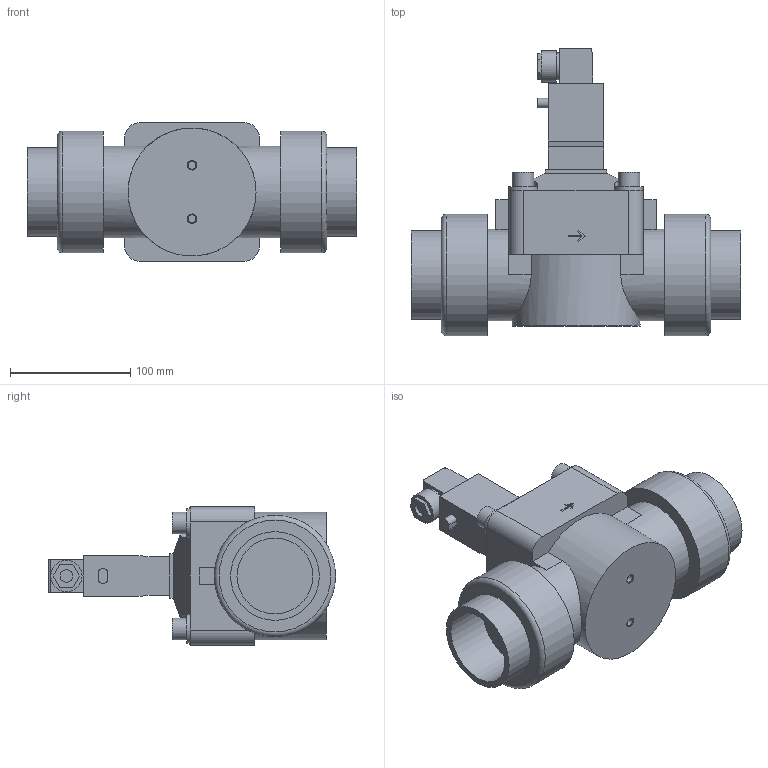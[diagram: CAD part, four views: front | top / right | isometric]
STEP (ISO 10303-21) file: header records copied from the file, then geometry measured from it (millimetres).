
FILE_DESCRIPTION( ( 'STEP AP214' ), '1' );
FILE_NAME( 'p:/temp/worker_19/temp/app_54_02018110107034358241387192d056f_000000_00_00_000000/format_0/0142-042264-2_2-way_Solenoid_Valve_for_aggressive_media__true_union__D50.stp', '2018-11-01T06:03:44', ( '' ), ( '' ), ' ', 'PARTsolutions', ' ' );
FILE_SCHEMA( ( 'AUTOMOTIVE_DESIGN { 1 0 10303 214 1 1 1 1 }' ) );
Length unit declared in the file: millimetre
Products named in the file (1): HI_0142-042264-2/2-way Solenoid Valve for aggressive media, true union, D50
Bounding box: 274 x 239 x 115 mm (x, y, z)
Volume: 2263305.5 mm3; surface area: 166257 mm2
Topology: 1 solids, 1 shells, 148 faces, 347 edges, 223 vertices
Faces by surface type: plane 107, cylinder 37, cone 2, torus 2
Full cylindrical faces by diameter (mm): 6 x1, 6.647 x2, 7 x1, 10.5 x1, 18 x4, 22.5 x1, 26 x1, 63.2 x2, 73.8 x2, 76 x2, 101 x2, 106.5 x1
Entity records: 5364 total; most frequent: CARTESIAN_POINT 827, DIRECTION 706, ORIENTED_EDGE 632, EDGE_CURVE 316, AXIS2_PLACEMENT_3D 243, LINE 220, VECTOR 220, VERTEX_POINT 216
